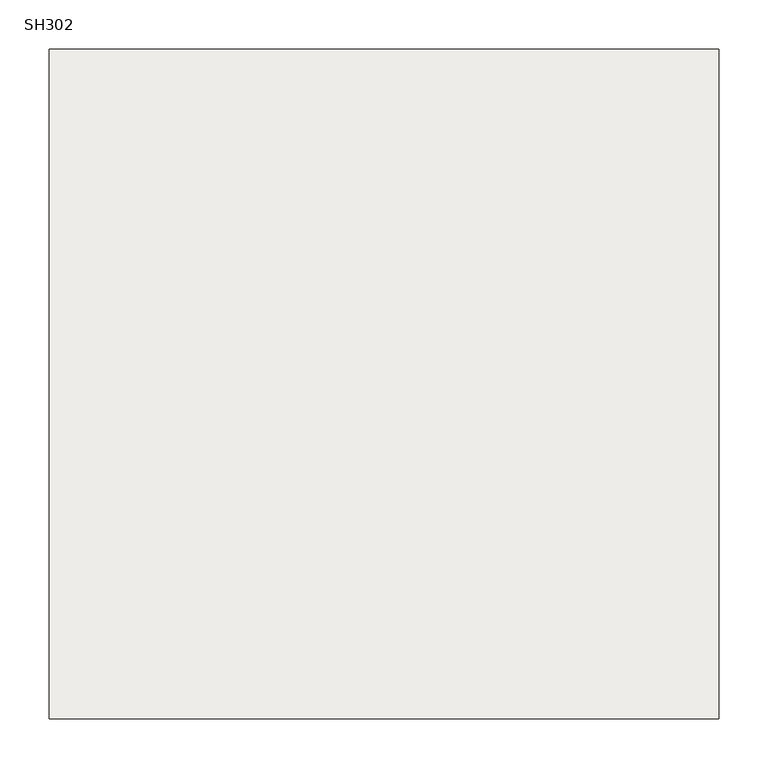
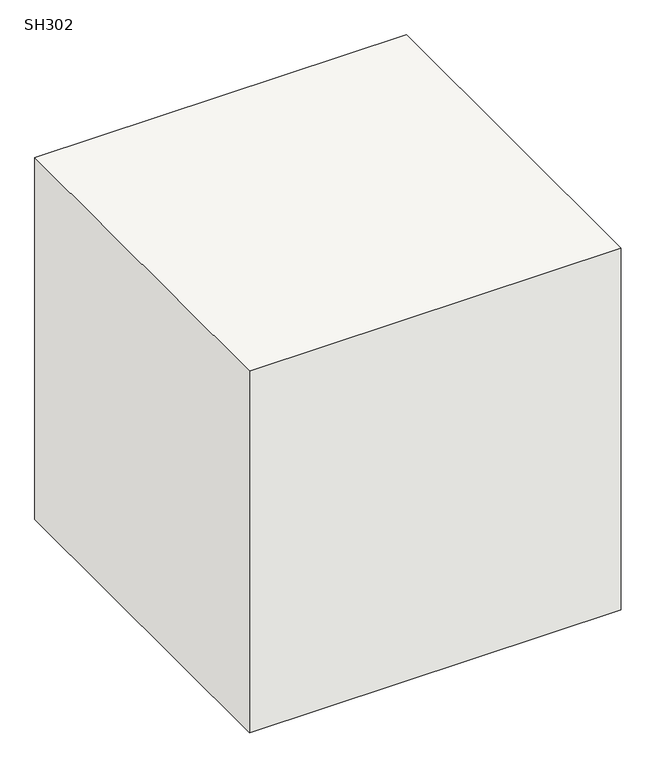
"""IFC4 building model written with IfcOpenShell, lengths in millimetres: slab geometry, 柱形_SH : SH302."""

from ifc_helpers import new_model, si_unit, frame, origin, place, context, project, spatial, polyline, outline, extrude, source, transform, mapped, element, save


def sh302_2cdbd7e4(model_context):
    return source(origin(), model_context, "Body", "SweptSolid", [
        extrude(outline(polyline([(340.0, 340.0), (340.0, -340.0), (-340.0, -340.0), (-340.0, 340.0), (340.0, 340.0)])), frame((0.0, 0.0, -700.0), z_axis=(0.0, 0.0, 1.0), x_axis=(1.0, 0.0, 0.0)), (0.0, 0.0, 1.0), 700.0),
    ])


if __name__ == "__main__":
    model = new_model("IFC4")
    model_context = context("Model", 3, world=origin())
    ifc_project = project(units=[si_unit("LENGTHUNIT", "METRE", prefix="MILLI")], contexts=[model_context])
    site = spatial("IfcSite", under=ifc_project)
    building = spatial("IfcBuilding", under=site)
    placement = place(None, origin())
    sh302_shape = sh302_2cdbd7e4(model_context)
    element("IfcSlab", 1, ObjectType="柱形_SH : SH302", at=placement, inside=building, context=model_context, shape_type="MappedRepresentation", body=[
        mapped(sh302_shape, transform((0.0, 0.0, 0.0), x_axis=(1.0, 0.0, 0.0), y_axis=(0.0, 1.0, 0.0), z_axis=(0.0, 0.0, 1.0))),
    ])
    save(model, "model.ifc")
